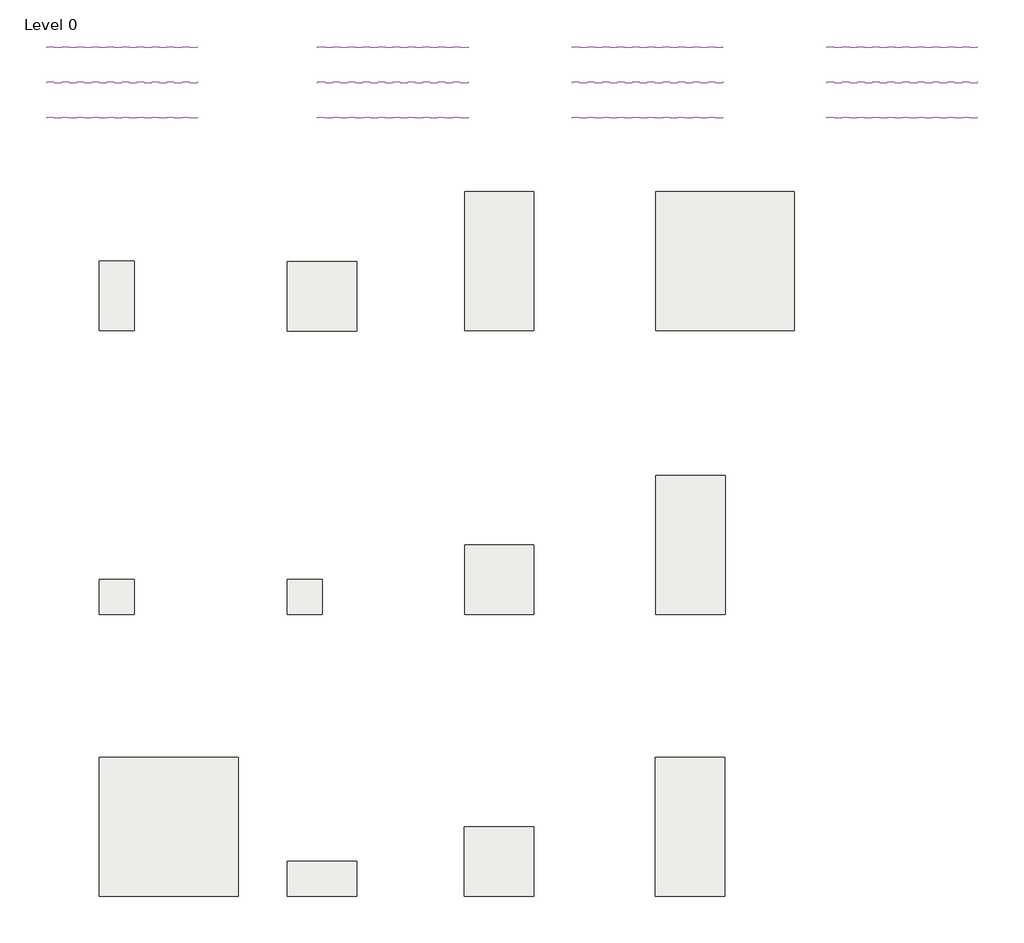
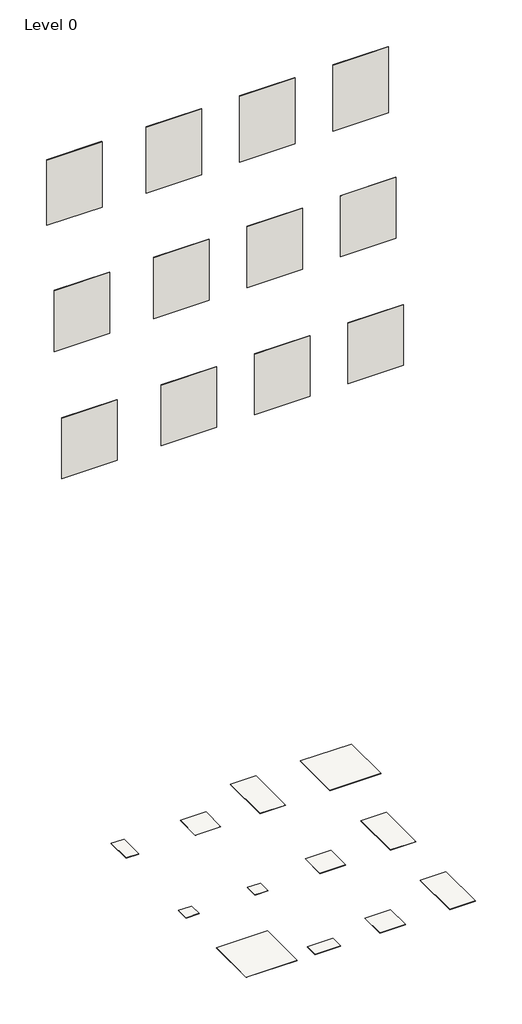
# One storey: 12 slabs, 12 walls.
"""IFC4 building model written with IfcOpenShell, lengths in millimetres."""

from ifc_helpers import new_model, si_unit, frame, origin, place, context, project, spatial, polyline, outline, extrude, element, save

model = new_model("IFC4")

# Units and contexts
model_context = context("Model", 3, world=origin())
ifc_project = project(units=[si_unit("LENGTHUNIT", "METRE", prefix="MILLI")], contexts=[model_context])

# Site, building, storey
site = spatial("IfcSite", under=ifc_project)
building = spatial("IfcBuilding", under=site)
storey = spatial("IfcBuildingStorey", under=building, Name="Level 0", Elevation=0.0)

# Slabs
placement = place(None, origin())
element("IfcSlab", 1, ObjectType="Floor_Tiles_Refin-Pedra_Azul-Ivory-60x120 NZ55", at=placement, inside=storey, context=model_context, shape_type="SweptSolid", body=[
    extrude(outline(polyline([(10127.1861419, 6889.4623743), (10127.1861419, 5689.4623743), (9527.1861419, 5689.4623743), (9527.1861419, 6889.4623743), (10127.1861419, 6889.4623743)])), frame((0.0, 0.0, -10.0), z_axis=(0.0, 0.0, 1.0), x_axis=(1.0, 0.0, 0.0)), (0.0, 0.0, 1.0), 10.0),
])
element("IfcSlab", 2, ObjectType="Floor_Tiles_Refin-Pedra_Azul-Ivory-30x60 NZ61", at=placement, inside=storey, context=model_context, shape_type="SweptSolid", body=[
    extrude(outline(polyline([(6674.3752062, 6289.4623743), (6674.3752062, 5689.4623743), (6374.3752062, 5689.4623743), (6374.3752062, 6289.4623743), (6674.3752062, 6289.4623743)])), frame((0.0, 0.0, -10.0), z_axis=(0.0, 0.0, 1.0), x_axis=(1.0, 0.0, 0.0)), (0.0, 0.0, 1.0), 10.0),
])
element("IfcSlab", 3, ObjectType="Floor_Tiles_Refin-Pedra_Azul-Ivory_Lucido-60x60 OA48", at=placement, inside=storey, context=model_context, shape_type="SweptSolid", body=[
    extrude(outline(polyline([(10127.1861419, 3839.4623743), (10127.1861419, 3239.4623743), (9527.1861419, 3239.4623743), (9527.1861419, 3839.4623743), (10127.1861419, 3839.4623743)])), frame((0.0, 0.0, -10.0), z_axis=(0.0, 0.0, 1.0), x_axis=(1.0, 0.0, 0.0)), (0.0, 0.0, 1.0), 10.0),
])
element("IfcSlab", 4, ObjectType="Floor_Tiles_Refin-Pedra_Azul-Ivory_Mosaico_Mix-30x30 NZ89", at=placement, inside=storey, context=model_context, shape_type="SweptSolid", body=[
    extrude(outline(polyline([(8297.3924055, 3539.4623743), (8297.3924055, 3239.4623743), (7997.3924055, 3239.4623743), (7997.3924055, 3539.4623743), (8297.3924055, 3539.4623743)])), frame((0.0, 0.0, -10.0), z_axis=(0.0, 0.0, 1.0), x_axis=(1.0, 0.0, 0.0)), (0.0, 0.0, 1.0), 10.0),
])
element("IfcSlab", 5, ObjectType="Floor_Tiles_Refin-Pedra_Azul-Ivory_Mosaico-30x30 NV93", at=placement, inside=storey, context=model_context, shape_type="SweptSolid", body=[
    extrude(outline(polyline([(6674.3752062, 3539.4623743), (6674.3752062, 3239.4623743), (6374.3752062, 3239.4623743), (6374.3752062, 3539.4623743), (6674.3752062, 3539.4623743)])), frame((0.0, 0.0, -10.0), z_axis=(0.0, 0.0, 1.0), x_axis=(1.0, 0.0, 0.0)), (0.0, 0.0, 1.0), 10.0),
])
element("IfcSlab", 6, ObjectType="Floor_Tiles_Refin-Pedra_Azul-Ivory_Lucido-120x120 OA71", at=placement, inside=storey, context=model_context, shape_type="SweptSolid", body=[
    extrude(outline(polyline([(7572.6009331, 2003.4367235), (7572.6009331, 803.4367235), (6372.6009331, 803.4367235), (6372.6009331, 2003.4367235), (7572.6009331, 2003.4367235)])), frame((0.0, 0.0, -10.0), z_axis=(0.0, 0.0, 1.0), x_axis=(1.0, 0.0, 0.0)), (0.0, 0.0, 1.0), 10.0),
])
element("IfcSlab", 7, ObjectType="Floor_Tiles_Refin-Pedra_Azul-Ivory-60x60 NV51", at=placement, inside=storey, context=model_context, shape_type="SweptSolid", body=[
    extrude(outline(polyline([(8597.3924055, 6288.4192064), (8597.3924055, 5688.4192064), (7997.3924055, 5688.4192064), (7997.3924055, 6288.4192064), (8597.3924055, 6288.4192064)])), frame((0.0, 0.0, -10.0), z_axis=(0.0, 0.0, 1.0), x_axis=(1.0, 0.0, 0.0)), (0.0, 0.0, 1.0), 10.0),
])
element("IfcSlab", 8, ObjectType="Floor_Tiles_Refin-Pedra_Azul-Ivory_Strutt.-30x60 NV55", at=placement, inside=storey, context=model_context, shape_type="SweptSolid", body=[
    extrude(outline(polyline([(8595.6181323, 1103.4367235), (8595.6181323, 803.4367235), (7995.6181323, 803.4367235), (7995.6181323, 1103.4367235), (8595.6181323, 1103.4367235)])), frame((0.0, 0.0, -10.0), z_axis=(0.0, 0.0, 1.0), x_axis=(1.0, 0.0, 0.0)), (0.0, 0.0, 1.0), 10.0),
])
element("IfcSlab", 9, ObjectType="Floor_Tiles_Refin-Pedra_Azul-Ivory_Strutt.-60x60 OA98", at=placement, inside=storey, context=model_context, shape_type="SweptSolid", body=[
    extrude(outline(polyline([(10125.4118688, 1403.4367235), (10125.4118688, 803.4367235), (9525.4118688, 803.4367235), (9525.4118688, 1403.4367235), (10125.4118688, 1403.4367235)])), frame((0.0, 0.0, -10.0), z_axis=(0.0, 0.0, 1.0), x_axis=(1.0, 0.0, 0.0)), (0.0, 0.0, 1.0), 10.0),
])
element("IfcSlab", 10, ObjectType="Floor_Tiles_Refin-Pedra_Azul-Ivory-120x120 NU87", at=placement, inside=storey, context=model_context, shape_type="SweptSolid", body=[
    extrude(outline(polyline([(12377.1861419, 6889.4623743), (12377.1861419, 5689.4623743), (11177.1861419, 5689.4623743), (11177.1861419, 6889.4623743), (12377.1861419, 6889.4623743)])), frame((0.0, 0.0, -10.0), z_axis=(0.0, 0.0, 1.0), x_axis=(1.0, 0.0, 0.0)), (0.0, 0.0, 1.0), 10.0),
])
element("IfcSlab", 11, ObjectType="Floor_Tiles_Refin-Pedra_Azul-Ivory_Lucido-60x120 OA78", at=placement, inside=storey, context=model_context, shape_type="SweptSolid", body=[
    extrude(outline(polyline([(11777.1861419, 4439.4623743), (11777.1861419, 3239.4623743), (11177.1861419, 3239.4623743), (11177.1861419, 4439.4623743), (11777.1861419, 4439.4623743)])), frame((0.0, 0.0, -10.0), z_axis=(0.0, 0.0, 1.0), x_axis=(1.0, 0.0, 0.0)), (0.0, 0.0, 1.0), 10.0),
])
element("IfcSlab", 12, ObjectType="Floor_Tiles_Refin-Pedra_Azul-Ivory_Strutt.-60x120 OA74", at=placement, inside=storey, context=model_context, shape_type="SweptSolid", body=[
    extrude(outline(polyline([(11775.4118688, 2003.4367235), (11775.4118688, 803.4367235), (11175.4118688, 803.4367235), (11175.4118688, 2003.4367235), (11775.4118688, 2003.4367235)])), frame((0.0, 0.0, -10.0), z_axis=(0.0, 0.0, 1.0), x_axis=(1.0, 0.0, 0.0)), (0.0, 0.0, 1.0), 10.0),
])

# Walls
element("IfcWall", 13, ObjectType="Wall_Tiles_Refin-Pedra_Azul-Ivory-60x60 NV51", at=placement, inside=storey, context=model_context, shape_type="SweptSolid", body=[
    extrude(outline(polyline([(9557.3752062, 8132.3838631), (8257.3752062, 8132.3838631), (8257.3752062, 8142.3838631), (9557.3752062, 8142.3838631), (9557.3752062, 8132.3838631)])), frame((0.0, 0.0, 14387.6770443), z_axis=(0.0, 0.0, 1.0), x_axis=(1.0, 0.0, 0.0)), (0.0, 0.0, 1.0), 1641.7417352),
])
element("IfcWall", 14, ObjectType="Wall_Tiles_Refin-Pedra_Azul-Ivory-60x120 NZ55", at=placement, inside=storey, context=model_context, shape_type="SweptSolid", body=[
    extrude(outline(polyline([(11757.3752062, 8132.3838631), (10457.3752062, 8132.3838631), (10457.3752062, 8142.3838631), (11757.3752062, 8142.3838631), (11757.3752062, 8132.3838631)])), frame((0.0, 0.0, 14387.6770443), z_axis=(0.0, 0.0, 1.0), x_axis=(1.0, 0.0, 0.0)), (0.0, 0.0, 1.0), 1641.7417352),
])
element("IfcWall", 15, ObjectType="Wall_Tiles_Refin-Pedra_Azul-Ivory-30x60 NZ61", at=placement, inside=storey, context=model_context, shape_type="SweptSolid", body=[
    extrude(outline(polyline([(7217.3752062, 8132.3838631), (5917.3752062, 8132.3838631), (5917.3752062, 8142.3838631), (7217.3752062, 8142.3838631), (7217.3752062, 8132.3838631)])), frame((0.0, 0.0, 14403.7267346), z_axis=(0.0, 0.0, 1.0), x_axis=(1.0, 0.0, 0.0)), (0.0, 0.0, 1.0), 1625.692045),
])
element("IfcWall", 16, ObjectType="Wall_Tiles_Refin-Pedra_Azul-Ivory_Mosaico-30x30 NV93", at=placement, inside=storey, context=model_context, shape_type="SweptSolid", body=[
    extrude(outline(polyline([(7217.3752062, 7827.3838631), (5917.3752062, 7827.3838631), (5917.3752062, 7837.3838631), (7217.3752062, 7837.3838631), (7217.3752062, 7827.3838631)])), frame((0.0, 0.0, 11452.5436262), z_axis=(0.0, 0.0, 1.0), x_axis=(1.0, 0.0, 0.0)), (0.0, 0.0, 1.0), 1513.1985566),
])
element("IfcWall", 17, ObjectType="Wall_Tiles_Refin-Pedra_Azul-Ivory_Mosaico_Mix-30x30 NZ89", at=placement, inside=storey, context=model_context, shape_type="SweptSolid", body=[
    extrude(outline(polyline([(9557.3752062, 7827.3838631), (8257.3752062, 7827.3838631), (8257.3752062, 7837.3838631), (9557.3752062, 7837.3838631), (9557.3752062, 7827.3838631)])), frame((0.0, 0.0, 11452.5436262), z_axis=(0.0, 0.0, 1.0), x_axis=(1.0, 0.0, 0.0)), (0.0, 0.0, 1.0), 1513.1985566),
])
element("IfcWall", 18, ObjectType="Wall_Tiles_Refin-Pedra_Azul-Ivory_Lucido-60x60 OA48", at=placement, inside=storey, context=model_context, shape_type="SweptSolid", body=[
    extrude(outline(polyline([(11757.3752062, 7827.3838631), (10457.3752062, 7827.3838631), (10457.3752062, 7837.3838631), (11757.3752062, 7837.3838631), (11757.3752062, 7827.3838631)])), frame((0.0, 0.0, 11452.5436262), z_axis=(0.0, 0.0, 1.0), x_axis=(1.0, 0.0, 0.0)), (0.0, 0.0, 1.0), 1513.1985566),
])
element("IfcWall", 19, ObjectType="Wall_Tiles_Refin-Pedra_Azul-Ivory_Lucido-120x120 OA71", at=placement, inside=storey, context=model_context, shape_type="SweptSolid", body=[
    extrude(outline(polyline([(7217.3752062, 7522.3838631), (5917.3752062, 7522.3838631), (5917.3752062, 7532.3838631), (7217.3752062, 7532.3838631), (7217.3752062, 7522.3838631)])), frame((0.0, 0.0, 8479.1027214), z_axis=(0.0, 0.0, 1.0), x_axis=(1.0, 0.0, 0.0)), (0.0, 0.0, 1.0), 1502.5740159),
])
element("IfcWall", 20, ObjectType="Wall_Tiles_Refin-Pedra_Azul-Ivory_Strutt.-30x60 NV55", at=placement, inside=storey, context=model_context, shape_type="SweptSolid", body=[
    extrude(outline(polyline([(9557.3752062, 7522.3838631), (8257.3752062, 7522.3838631), (8257.3752062, 7532.3838631), (9557.3752062, 7532.3838631), (9557.3752062, 7522.3838631)])), frame((0.0, 0.0, 8479.1027214), z_axis=(0.0, 0.0, 1.0), x_axis=(1.0, 0.0, 0.0)), (0.0, 0.0, 1.0), 1502.5740159),
])
element("IfcWall", 21, ObjectType="Wall_Tiles_Refin-Pedra_Azul-Ivory_Strutt.-60x60 OA98", at=placement, inside=storey, context=model_context, shape_type="SweptSolid", body=[
    extrude(outline(polyline([(11757.3752062, 7522.3838631), (10457.3752062, 7522.3838631), (10457.3752062, 7532.3838631), (11757.3752062, 7532.3838631), (11757.3752062, 7522.3838631)])), frame((0.0, 0.0, 8479.1027214), z_axis=(0.0, 0.0, 1.0), x_axis=(1.0, 0.0, 0.0)), (0.0, 0.0, 1.0), 1502.5740159),
])
element("IfcWall", 22, ObjectType="Wall_Tiles_Refin-Pedra_Azul-Ivory-120x120 NU87", at=placement, inside=storey, context=model_context, shape_type="SweptSolid", body=[
    extrude(outline(polyline([(13957.3752062, 8132.3838631), (12657.3752062, 8132.3838631), (12657.3752062, 8142.3838631), (13957.3752062, 8142.3838631), (13957.3752062, 8132.3838631)])), frame((0.0, 0.0, 14387.6770443), z_axis=(0.0, 0.0, 1.0), x_axis=(1.0, 0.0, 0.0)), (0.0, 0.0, 1.0), 1641.7417352),
])
element("IfcWall", 23, ObjectType="Wall_Tiles_Refin-Pedra_Azul-Ivory_Lucido-60x120 OA78", at=placement, inside=storey, context=model_context, shape_type="SweptSolid", body=[
    extrude(outline(polyline([(13957.3752062, 7827.3838631), (12657.3752062, 7827.3838631), (12657.3752062, 7837.3838631), (13957.3752062, 7837.3838631), (13957.3752062, 7827.3838631)])), frame((0.0, 0.0, 11452.5436262), z_axis=(0.0, 0.0, 1.0), x_axis=(1.0, 0.0, 0.0)), (0.0, 0.0, 1.0), 1513.1985566),
])
element("IfcWall", 24, ObjectType="Wall_Tiles_Refin-Pedra_Azul-Ivory_Strutt.-60x120 OA74", at=placement, inside=storey, context=model_context, shape_type="SweptSolid", body=[
    extrude(outline(polyline([(13957.3752062, 7522.3838631), (12657.3752062, 7522.3838631), (12657.3752062, 7532.3838631), (13957.3752062, 7532.3838631), (13957.3752062, 7522.3838631)])), frame((0.0, 0.0, 8479.1027214), z_axis=(0.0, 0.0, 1.0), x_axis=(1.0, 0.0, 0.0)), (0.0, 0.0, 1.0), 1502.5740159),
])

save(model, "model.ifc")
